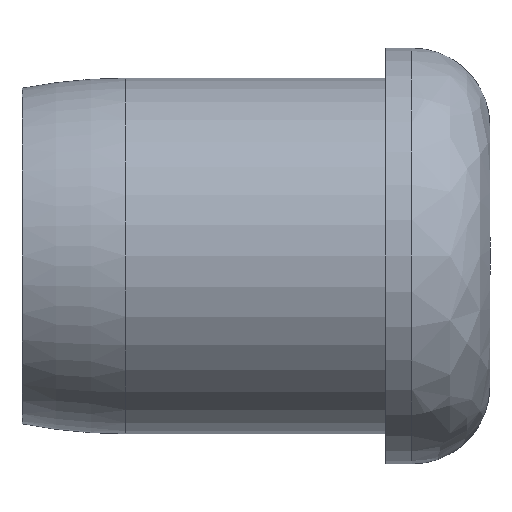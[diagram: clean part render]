
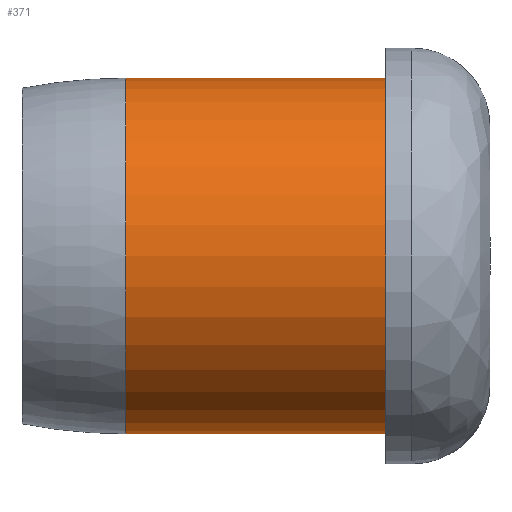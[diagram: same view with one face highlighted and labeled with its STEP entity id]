
A CAD part, front view. The second image highlights one B-rep face of the part: STEP entity #371.
In plain terms, the highlighted cylindrical face has radius 10.858 mm (diameter 21.717 mm), a partial arc.
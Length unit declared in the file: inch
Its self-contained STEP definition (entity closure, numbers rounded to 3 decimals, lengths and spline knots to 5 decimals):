
#9 = CARTESIAN_POINT ( 'NONE',  ( -2.25, 0., -0.4275 ) ) ;
#14 = CIRCLE ( 'NONE', #36, 0.4275 ) ;
#23 = LINE ( 'NONE', #9, #429 ) ;
#27 = CARTESIAN_POINT ( 'NONE',  ( -0.5, 0., -0.4275 ) ) ;
#33 = CARTESIAN_POINT ( 'NONE',  ( -2.25, 0., 0. ) ) ;
#36 = AXIS2_PLACEMENT_3D ( 'NONE', #352, #109, #393 ) ;
#37 = CYLINDRICAL_SURFACE ( 'NONE', #175, 0.4275 ) ;
#39 = VERTEX_POINT ( 'NONE', #101 ) ;
#97 = CIRCLE ( 'NONE', #435, 0.4275 ) ;
#101 = CARTESIAN_POINT ( 'NONE',  ( -1.125, 0., 0.4275 ) ) ;
#103 = CARTESIAN_POINT ( 'NONE',  ( -1.125, 0., -0.4275 ) ) ;
#109 = DIRECTION ( 'NONE',  ( -1., 0., 0. ) ) ;
#113 = DIRECTION ( 'NONE',  ( -1., 0., 0. ) ) ;
#142 = CARTESIAN_POINT ( 'NONE',  ( -1.125, 0., 0. ) ) ;
#152 = EDGE_CURVE ( 'NONE', #171, #302, #14, .T. ) ;
#164 = VECTOR ( 'NONE', #351, 39.37008 ) ;
#171 = VERTEX_POINT ( 'NONE', #27 ) ;
#175 = AXIS2_PLACEMENT_3D ( 'NONE', #33, #113, #246 ) ;
#180 = DIRECTION ( 'NONE',  ( 0., 0., 1. ) ) ;
#186 = CARTESIAN_POINT ( 'NONE',  ( -2.25, 0., 0.4275 ) ) ;
#204 = ORIENTED_EDGE ( 'NONE', *, *, #206, .T. ) ;
#206 = EDGE_CURVE ( 'NONE', #39, #211, #97, .T. ) ;
#211 = VERTEX_POINT ( 'NONE', #103 ) ;
#229 = ORIENTED_EDGE ( 'NONE', *, *, #152, .T. ) ;
#246 = DIRECTION ( 'NONE',  ( 0., 0., 1. ) ) ;
#253 = DIRECTION ( 'NONE',  ( -1., 0., 0. ) ) ;
#270 = ORIENTED_EDGE ( 'NONE', *, *, #297, .T. ) ;
#297 = EDGE_CURVE ( 'NONE', #302, #39, #381, .T. ) ;
#302 = VERTEX_POINT ( 'NONE', #472 ) ;
#351 = DIRECTION ( 'NONE',  ( -1., 0., 0. ) ) ;
#352 = CARTESIAN_POINT ( 'NONE',  ( -0.5, 0., 0. ) ) ;
#371 = ADVANCED_FACE ( 'NONE', ( #475 ), #37, .T. ) ;
#381 = LINE ( 'NONE', #186, #164 ) ;
#393 = DIRECTION ( 'NONE',  ( 0., 0., 1. ) ) ;
#427 = DIRECTION ( 'NONE',  ( 1., 0., 0. ) ) ;
#429 = VECTOR ( 'NONE', #253, 39.37008 ) ;
#435 = AXIS2_PLACEMENT_3D ( 'NONE', #142, #427, #180 ) ;
#459 = EDGE_CURVE ( 'NONE', #171, #211, #23, .T. ) ;
#472 = CARTESIAN_POINT ( 'NONE',  ( -0.5, 0., 0.4275 ) ) ;
#475 = FACE_OUTER_BOUND ( 'NONE', #493, .T. ) ;
#493 = EDGE_LOOP ( 'NONE', ( #499, #229, #270, #204 ) ) ;
#499 = ORIENTED_EDGE ( 'NONE', *, *, #459, .F. ) ;
